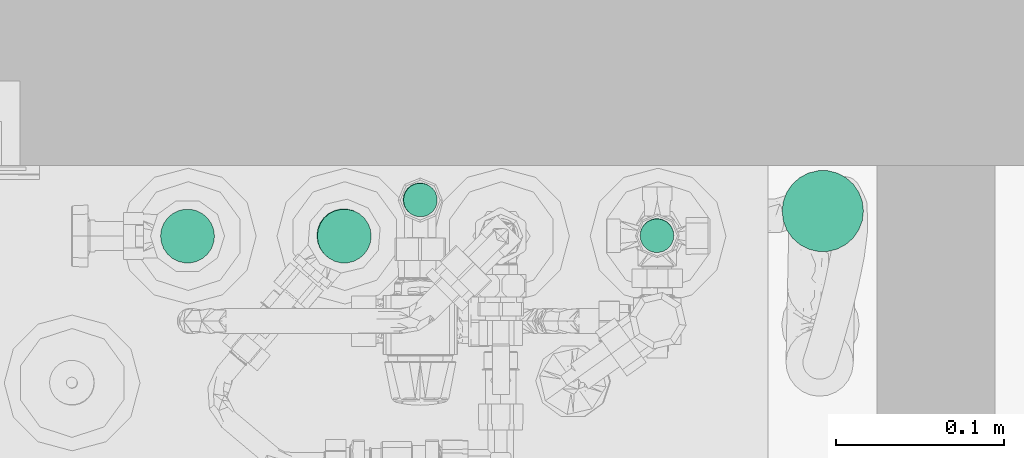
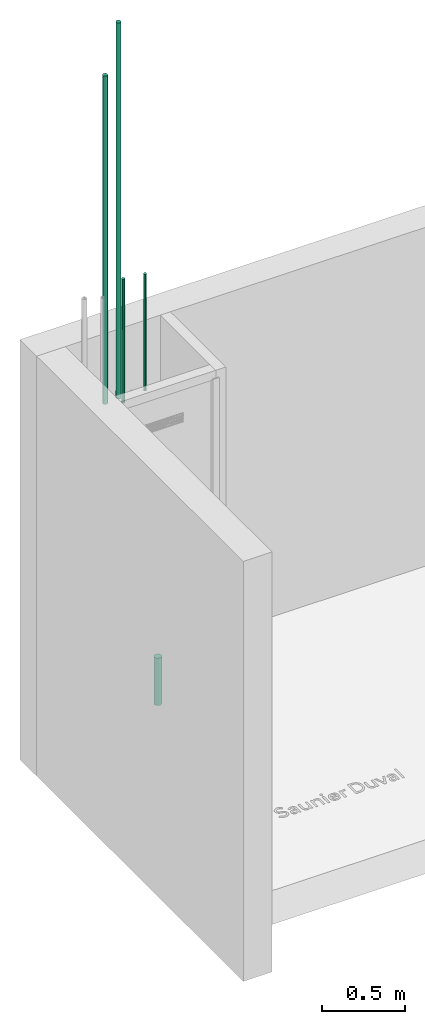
# One storey, part 3 of 8: 5 flow segments.
"""IFC2X3 building model written with IfcOpenShell, lengths in metres."""

from ifc_helpers import new_model, entity, si_unit, converted_unit, derived_unit, direction, frame, frame_2d, origin, origin_2d_with_axis, place, context, subcontext, project, spatial, circle, extrude, type_object, element, save


model = new_model("IFC2X3")

# Units and contexts
model_context = context("Model", 3, precision=1e-05, world=origin(), true_north=direction((6.123031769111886e-17, 1.0)))
body_context = subcontext(model_context, "Body", "Model", "MODEL_VIEW")
ifc_project = project(units=[si_unit("LENGTHUNIT", "METRE"), si_unit("AREAUNIT", "SQUARE_METRE"), si_unit("VOLUMEUNIT", "CUBIC_METRE"), converted_unit("PLANEANGLEUNIT", "DEGREE", entity("IfcPlaneAngleMeasure", 0.017453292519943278), si_unit("PLANEANGLEUNIT", "RADIAN"), dimensions=[0, 0, 0, 0, 0, 0, 0]), si_unit("MASSUNIT", "GRAM", prefix="KILO"), derived_unit("MASSDENSITYUNIT", [(si_unit("MASSUNIT", "GRAM", prefix="KILO"), 1), (si_unit("LENGTHUNIT", "METRE"), -3)]), derived_unit("IONCONCENTRATIONUNIT", [(si_unit("MASSUNIT", "GRAM", prefix="KILO"), 1), (si_unit("LENGTHUNIT", "METRE"), -3)]), derived_unit("MOMENTOFINERTIAUNIT", [(si_unit("LENGTHUNIT", "METRE"), 4)]), si_unit("TIMEUNIT", "SECOND"), si_unit("FREQUENCYUNIT", "HERTZ"), si_unit("THERMODYNAMICTEMPERATUREUNIT", "DEGREE_CELSIUS"), derived_unit("THERMALTRANSMITTANCEUNIT", [(si_unit("MASSUNIT", "GRAM", prefix="KILO"), 1), (si_unit("THERMODYNAMICTEMPERATUREUNIT", "KELVIN"), -1), (si_unit("TIMEUNIT", "SECOND"), -3)]), derived_unit("THERMALCONDUCTANCEUNIT", [(si_unit("MASSUNIT", "GRAM", prefix="KILO"), 1), (si_unit("THERMODYNAMICTEMPERATUREUNIT", "KELVIN"), -1), (si_unit("TIMEUNIT", "SECOND"), -3), (si_unit("LENGTHUNIT", "METRE"), 1)]), derived_unit("VOLUMETRICFLOWRATEUNIT", [(si_unit("LENGTHUNIT", "METRE", prefix="DECI"), 3), (si_unit("TIMEUNIT", "SECOND"), -1)]), derived_unit("MASSFLOWRATEUNIT", [(si_unit("MASSUNIT", "GRAM", prefix="KILO"), 1), (si_unit("TIMEUNIT", "SECOND"), -1)]), derived_unit("ROTATIONALFREQUENCYUNIT", [(si_unit("TIMEUNIT", "SECOND"), -1)]), si_unit("ELECTRICCURRENTUNIT", "AMPERE"), si_unit("ELECTRICVOLTAGEUNIT", "VOLT"), si_unit("POWERUNIT", "WATT"), si_unit("FORCEUNIT", "NEWTON", prefix="KILO"), si_unit("ILLUMINANCEUNIT", "LUX"), si_unit("LUMINOUSFLUXUNIT", "LUMEN"), si_unit("LUMINOUSINTENSITYUNIT", "CANDELA"), si_unit("ENERGYUNIT", "JOULE"), derived_unit("USERDEFINED", [(si_unit("MASSUNIT", "GRAM", prefix="KILO"), -1), (si_unit("LENGTHUNIT", "METRE"), -2), (si_unit("TIMEUNIT", "SECOND"), 3), (si_unit("LUMINOUSFLUXUNIT", "LUMEN"), 1)]), derived_unit("USERDEFINED", [(si_unit("MASSUNIT", "GRAM", prefix="KILO"), 1), (si_unit("TIMEUNIT", "SECOND"), -3), (si_unit("LENGTHUNIT", "METRE"), 3), (si_unit("ELECTRICCURRENTUNIT", "AMPERE"), -2)]), derived_unit("SOUNDPOWERUNIT", [(si_unit("MASSUNIT", "GRAM", prefix="KILO"), 1), (si_unit("TIMEUNIT", "SECOND"), -3), (si_unit("LENGTHUNIT", "METRE"), 2)]), derived_unit("SOUNDPRESSUREUNIT", [(si_unit("MASSUNIT", "GRAM", prefix="KILO"), 1), (si_unit("LENGTHUNIT", "METRE"), -1), (si_unit("TIMEUNIT", "SECOND"), -2)]), derived_unit("LINEARVELOCITYUNIT", [(si_unit("LENGTHUNIT", "METRE"), 1), (si_unit("TIMEUNIT", "SECOND"), -1)]), si_unit("PRESSUREUNIT", "PASCAL"), derived_unit("USERDEFINED", [(si_unit("MASSUNIT", "GRAM", prefix="KILO"), 1), (si_unit("LENGTHUNIT", "METRE"), -2), (si_unit("TIMEUNIT", "SECOND"), -2)]), derived_unit("LINEARFORCEUNIT", [(si_unit("MASSUNIT", "GRAM", prefix="KILO"), 1), (si_unit("TIMEUNIT", "SECOND"), -2)]), derived_unit("PLANARFORCEUNIT", [(si_unit("MASSUNIT", "GRAM", prefix="KILO"), 1), (si_unit("LENGTHUNIT", "METRE"), -1), (si_unit("TIMEUNIT", "SECOND"), -2)]), derived_unit("SPECIFICHEATCAPACITYUNIT", [(si_unit("THERMODYNAMICTEMPERATUREUNIT", "KELVIN"), -1), (si_unit("LENGTHUNIT", "METRE"), 2), (si_unit("TIMEUNIT", "SECOND"), -2)]), derived_unit("HEATFLUXDENSITYUNIT", [(si_unit("MASSUNIT", "GRAM", prefix="KILO"), 1), (si_unit("TIMEUNIT", "SECOND"), -3)]), derived_unit("HEATINGVALUEUNIT", [(si_unit("LENGTHUNIT", "METRE"), 2), (si_unit("TIMEUNIT", "SECOND"), -2)]), derived_unit("VAPORPERMEABILITYUNIT", [(si_unit("LENGTHUNIT", "METRE"), -1), (si_unit("TIMEUNIT", "SECOND"), 1)]), derived_unit("DYNAMICVISCOSITYUNIT", [(si_unit("MASSUNIT", "GRAM", prefix="KILO"), 1), (si_unit("TIMEUNIT", "SECOND"), -1), (si_unit("LENGTHUNIT", "METRE"), -1)]), derived_unit("THERMALEXPANSIONCOEFFICIENTUNIT", [(si_unit("THERMODYNAMICTEMPERATUREUNIT", "KELVIN"), -1)]), derived_unit("MODULUSOFELASTICITYUNIT", [(si_unit("MASSUNIT", "GRAM", prefix="KILO"), 1), (si_unit("LENGTHUNIT", "METRE"), -1), (si_unit("TIMEUNIT", "SECOND"), -2)]), derived_unit("ISOTHERMALMOISTURECAPACITYUNIT", [(si_unit("MASSUNIT", "GRAM", prefix="KILO"), -1), (si_unit("LENGTHUNIT", "METRE"), 3)]), derived_unit("MOISTUREDIFFUSIVITYUNIT", [(si_unit("TIMEUNIT", "SECOND"), -1), (si_unit("LENGTHUNIT", "METRE"), 2)]), derived_unit("MASSPERLENGTHUNIT", [(si_unit("MASSUNIT", "GRAM", prefix="KILO"), 1), (si_unit("LENGTHUNIT", "METRE"), -1)]), derived_unit("THERMALRESISTANCEUNIT", [(si_unit("MASSUNIT", "GRAM", prefix="KILO"), -1), (si_unit("TIMEUNIT", "SECOND"), 3), (si_unit("THERMODYNAMICTEMPERATUREUNIT", "KELVIN"), 1)]), derived_unit("ACCELERATIONUNIT", [(si_unit("LENGTHUNIT", "METRE"), 1), (si_unit("TIMEUNIT", "SECOND"), -2)]), derived_unit("ANGULARVELOCITYUNIT", [(si_unit("TIMEUNIT", "SECOND"), -1), (si_unit("PLANEANGLEUNIT", "RADIAN"), 1)]), derived_unit("LINEARSTIFFNESSUNIT", [(si_unit("MASSUNIT", "GRAM", prefix="KILO"), 1), (si_unit("TIMEUNIT", "SECOND"), -2)]), derived_unit("WARPINGCONSTANTUNIT", [(si_unit("LENGTHUNIT", "METRE"), 6)]), derived_unit("LINEARMOMENTUNIT", [(si_unit("MASSUNIT", "GRAM", prefix="KILO"), 1), (si_unit("LENGTHUNIT", "METRE"), 1), (si_unit("TIMEUNIT", "SECOND"), -2)]), derived_unit("TORQUEUNIT", [(si_unit("MASSUNIT", "GRAM", prefix="KILO"), 1), (si_unit("LENGTHUNIT", "METRE"), 2), (si_unit("TIMEUNIT", "SECOND"), -2)])], contexts=[model_context])

# Site, building, storey
site_placement = place(None, origin())
site = spatial("IfcSite", under=ifc_project, at=site_placement, Name="Default", CompositionType="ELEMENT")
building_placement = place(site_placement, origin())
building = spatial("IfcBuilding", under=site, at=building_placement, CompositionType="ELEMENT")
storey_placement = place(building_placement, origin())
storey = spatial("IfcBuildingStorey", under=building, at=storey_placement, Name="Niveau 0", CompositionType="ELEMENT", Elevation=-1.949160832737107e-14)

# Flow segments
pipe_segment_type_1 = type_object("IfcPipeSegmentType", Name="Canalisation:PVC - DWV", PredefinedType="NOTDEFINED")
flow_segment_1_placement = place(storey_placement, origin())
element("IfcFlowSegment", 1, at=flow_segment_1_placement, inside=storey, type_object=pipe_segment_type_1, Name="Canalisation:PVC - DWV", ObjectType="Canalisation:PVC - DWV", context=body_context, shape_type="SweptSolid", body=[
    extrude(circle(Radius=0.02413, at=origin_2d_with_axis()), frame((-8.173296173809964, 2.8223545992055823, -0.3381002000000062)), (0.0, 0.0, 1.0), 0.35000000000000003),
])
pipe_segment_type_2 = type_object("IfcPipeSegmentType", Name="Canalisation:COMAP MULTISKIN - SKINPRESS Laiton", PredefinedType="NOTDEFINED")
flow_segment_2_placement = place(storey_placement, origin())
element("IfcFlowSegment", 2, at=flow_segment_2_placement, inside=storey, type_object=pipe_segment_type_2, Name="Canalisation:COMAP MULTISKIN - SKINPRESS Laiton", ObjectType="Canalisation:COMAP MULTISKIN - SKINPRESS Laiton", context=body_context, shape_type="SweptSolid", body=[
    extrude(circle(Radius=0.016, at=origin_2d_with_axis()), frame((-8.550566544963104, 2.8074790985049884, 2.020749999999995), z_axis=(0.0, 0.0, 1.0), x_axis=(-1.0, 0.0, 0.0)), (0.0, 0.0, 1.0), 2.4232182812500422),
])
flow_segment_3_placement = place(storey_placement, origin())
element("IfcFlowSegment", 3, at=flow_segment_3_placement, inside=storey, type_object=pipe_segment_type_2, Name="Canalisation:COMAP MULTISKIN - SKINPRESS Laiton", ObjectType="Canalisation:COMAP MULTISKIN - SKINPRESS Laiton", context=body_context, shape_type="SweptSolid", body=[
    extrude(circle(Radius=0.01, at=origin_2d_with_axis()), frame((-8.27177295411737, 2.807902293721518, 2.016508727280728), z_axis=(0.0, -0.00020882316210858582, 0.9999999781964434), x_axis=(-1.0, 0.0, 0.0)), (0.0, 0.0, 1.0), 0.8623528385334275),
])
flow_segment_4_placement = place(storey_placement, origin())
element("IfcFlowSegment", 4, at=flow_segment_4_placement, inside=storey, type_object=pipe_segment_type_2, Name="Canalisation:COMAP MULTISKIN - SKINPRESS Laiton", ObjectType="Canalisation:COMAP MULTISKIN - SKINPRESS Laiton", context=body_context, shape_type="SweptSolid", body=[
    extrude(circle(Radius=0.016, at=frame_2d((1.0829234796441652e-15, -4.358443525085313e-20), x_axis=(1.0, 0.0))), frame((-8.457772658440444, 2.8077264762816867, 2.026999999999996), z_axis=(0.00010408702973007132, -8.0514976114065e-05, 0.9999999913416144), x_axis=(0.9999999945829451, 0.0, -0.0001040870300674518)), (0.0, 0.0, 1.0), 2.776968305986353),
])
pipe_segment_type_3 = type_object("IfcPipeSegmentType", Name="Canalisation:Mutlicouche_GM", PredefinedType="NOTDEFINED")
flow_segment_5_placement = place(storey_placement, origin())
element("IfcFlowSegment", 5, at=flow_segment_5_placement, inside=storey, type_object=pipe_segment_type_3, Name="Canalisation:Mutlicouche_GM", ObjectType="Canalisation:Mutlicouche_GM", context=body_context, shape_type="SweptSolid", body=[
    extrude(circle(Radius=0.01, at=frame_2d((-8.102994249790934e-20, 5.056914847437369e-20), x_axis=(1.0, 0.0))), frame((-8.412562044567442, 2.829080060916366, 1.9639101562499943), z_axis=(0.0002993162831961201, -0.00018679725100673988, 0.999999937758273), x_axis=(0.9999999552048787, 0.0, -0.00029931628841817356)), (0.0, 0.0, 1.0), 0.914997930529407),
])

save(model, "model.ifc")
